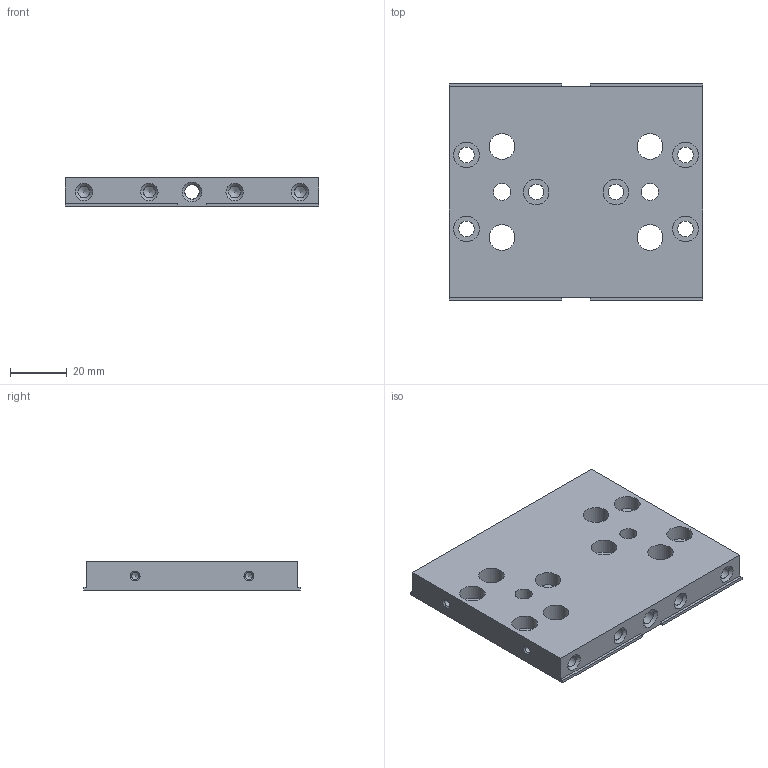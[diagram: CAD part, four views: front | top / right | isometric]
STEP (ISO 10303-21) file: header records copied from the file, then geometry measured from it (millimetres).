
FILE_DESCRIPTION(('STEP AP203'), '1');
FILE_NAME('ÒÏÏÔ1801.01.12.06.006 - Êðåïëåíèå êàðåòêè', '', ('UNSPECIFIED'), ('UNSPECIFIED'), 'C3D Converter', 'C3D Toolkit', '');
FILE_SCHEMA(('CONFIG_CONTROL_DESIGN'));
Length unit declared in the file: millimetre
Products named in the file (1): ТППФ1801.01.12.06.006
Bounding box: 89 x 76 x 10 mm (x, y, z)
Volume: 57119.1 mm3; surface area: 21371.4 mm2
Topology: 1 solids, 1 shells, 82 faces, 198 edges, 123 vertices
Faces by surface type: cylinder 32, cone 26, plane 24
Full cylindrical faces by diameter (mm): 2.459 x4, 4.134 x8, 5 x2, 5.5 x6, 6 x2, 9 x10
Entity records: 2732 total; most frequent: DIRECTION 368, CARTESIAN_POINT 327, ORIENTED_EDGE 254, EDGE_LOOP 174, AXIS2_PLACEMENT_3D 160, EDGE_CURVE 127, VERTEX_POINT 111, FACE_OUTER_BOUND 103
